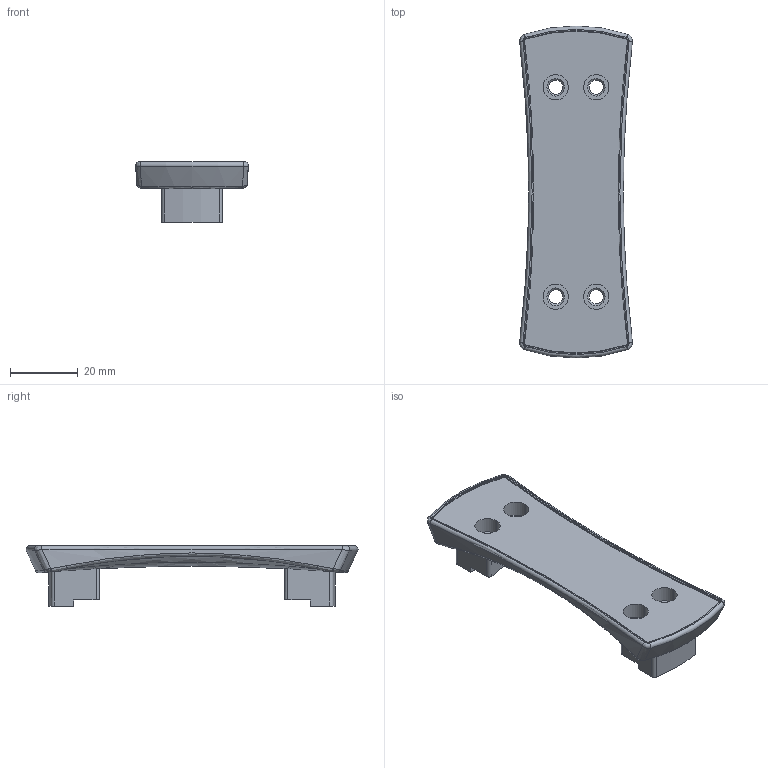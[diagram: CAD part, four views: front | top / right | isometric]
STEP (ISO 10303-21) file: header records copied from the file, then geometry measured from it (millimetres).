
FILE_DESCRIPTION((''),'2;1');
FILE_NAME('0002_1','2025-07-13T10:26:44',('Administrator'),(''),'CREO PARAMETRIC BY PTC INC, 2022073','CREO PARAMETRIC BY PTC INC, 2022073','');
FILE_SCHEMA(('CONFIG_CONTROL_DESIGN'));
Length unit declared in the file: millimetre
Products named in the file (1): 0002_1
Bounding box: 33.37 x 98.25 x 17.8 mm (x, y, z)
Volume: 19414.8 mm3; surface area: 9171.8 mm2
Topology: 1 solids, 1 shells, 113 faces, 308 edges, 202 vertices
Faces by surface type: cylinder 41, bspline 34, plane 16, cone 10, torus 8, extrusion 4
Entity records: 7063 total; most frequent: CARTESIAN_POINT 4390, ORIENTED_EDGE 616, DIRECTION 470, EDGE_CURVE 308, VERTEX_POINT 202, AXIS2_PLACEMENT_3D 201, EDGE_LOOP 126, CIRCLE 126
